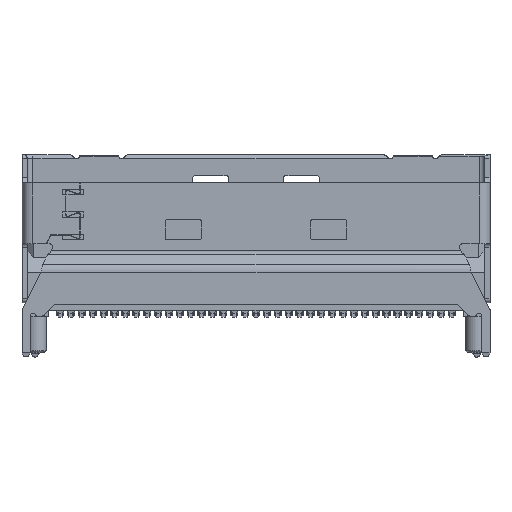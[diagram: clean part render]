
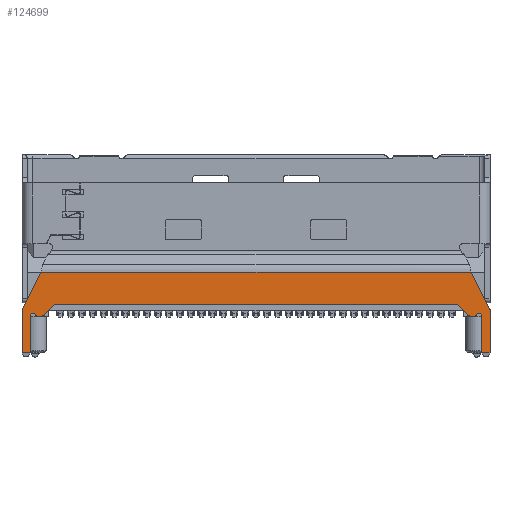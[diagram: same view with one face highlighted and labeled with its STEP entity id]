
A CAD part, top view. The second image highlights one B-rep face of the part: STEP entity #124699.
In plain terms, the highlighted planar face has unit normal (0, 0, 1).
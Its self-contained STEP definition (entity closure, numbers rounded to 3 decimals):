
#2596=DIRECTION('',(-1.,0.,0.));
#2597=VECTOR('',#2596,0.45);
#2598=CARTESIAN_POINT('',(-12.45,-3.68,2.3));
#2599=LINE('',#2598,#2597);
#2634=DIRECTION('',(0.,-1.,0.));
#2635=VECTOR('',#2634,2.34);
#2636=CARTESIAN_POINT('',(-12.9,-1.34,2.3));
#2637=LINE('',#2636,#2635);
#27380=DIRECTION('',(-1.,0.,0.));
#27381=VECTOR('',#27380,23.723);
#27382=CARTESIAN_POINT('',(11.861,0.771,
2.3));
#27383=LINE('',#27382,#27381);
#27395=DIRECTION('',(1.,0.,0.));
#27396=VECTOR('',#27395,0.45);
#27397=CARTESIAN_POINT('',(12.45,-3.68,2.3));
#27398=LINE('',#27397,#27396);
#27399=DIRECTION('',(0.,-1.,0.));
#27400=VECTOR('',#27399,2.045);
#27401=CARTESIAN_POINT('',(12.45,-1.635,2.3));
#27402=LINE('',#27401,#27400);
#27403=CARTESIAN_POINT('',(12.3,-1.635,2.3));
#27404=DIRECTION('',(0.,0.,-1.));
#27405=DIRECTION('',(-0.893,0.45,0.));
#27406=AXIS2_PLACEMENT_3D('',#27403,#27404,#27405);
#27408=CARTESIAN_POINT('',(12.032,-1.5,2.3));
#27409=DIRECTION('',(0.,0.,1.));
#27410=DIRECTION('',(0.,-1.,0.));
#27411=AXIS2_PLACEMENT_3D('',#27408,#27409,#27410);
#27413=DIRECTION('',(1.,0.,0.));
#27414=VECTOR('',#27413,0.166);
#27415=CARTESIAN_POINT('',(11.866,-1.65,2.3));
#27416=LINE('',#27415,#27414);
#27417=CARTESIAN_POINT('',(11.866,-1.35,2.3));
#27418=DIRECTION('',(0.,0.,1.));
#27419=DIRECTION('',(-0.719,-0.695,0.));
#27420=AXIS2_PLACEMENT_3D('',#27417,#27418,#27419);
#27422=DIRECTION('',(0.695,-0.719,0.));
#27423=VECTOR('',#27422,0.649);
#27424=CARTESIAN_POINT('',(11.199,-1.092,2.3));
#27425=LINE('',#27424,#27423);
#27426=CARTESIAN_POINT('',(10.983,-1.3,2.3));
#27427=DIRECTION('',(0.,0.,-1.));
#27428=DIRECTION('',(0.,1.,0.));
#27429=AXIS2_PLACEMENT_3D('',#27426,#27427,#27428);
#27431=CARTESIAN_POINT('',(-10.983,-1.3,2.3));
#27432=DIRECTION('',(0.,0.,-1.));
#27433=DIRECTION('',(-0.719,0.695,0.));
#27434=AXIS2_PLACEMENT_3D('',#27431,#27432,#27433);
#27436=DIRECTION('',(0.695,0.719,0.));
#27437=VECTOR('',#27436,0.649);
#27438=CARTESIAN_POINT('',(-11.65,-1.558,2.3));
#27439=LINE('',#27438,#27437);
#27440=CARTESIAN_POINT('',(-11.866,-1.35,2.3));
#27441=DIRECTION('',(0.,0.,1.));
#27442=DIRECTION('',(0.,-1.,0.));
#27443=AXIS2_PLACEMENT_3D('',#27440,#27441,#27442);
#27445=CARTESIAN_POINT('',(-12.032,-1.5,2.3));
#27446=DIRECTION('',(0.,0.,1.));
#27447=DIRECTION('',(-0.893,-0.45,0.));
#27448=AXIS2_PLACEMENT_3D('',#27445,#27446,#27447);
#27450=CARTESIAN_POINT('',(-12.3,-1.635,2.3));
#27451=DIRECTION('',(0.,0.,-1.));
#27452=DIRECTION('',(-1.,0.,0.));
#27453=AXIS2_PLACEMENT_3D('',#27450,#27451,#27452);
#27455=DIRECTION('',(-0.442,-0.897,0.));
#27456=VECTOR('',#27455,2.353);
#27457=CARTESIAN_POINT('',(-11.861,0.771,
2.3));
#27458=LINE('',#27457,#27456);
#27459=DIRECTION('',(-0.442,0.897,0.));
#27460=VECTOR('',#27459,2.353);
#27461=CARTESIAN_POINT('',(12.9,-1.34,2.3));
#27462=LINE('',#27461,#27460);
#27484=DIRECTION('',(1.,0.,0.));
#27485=VECTOR('',#27484,21.967);
#27486=CARTESIAN_POINT('',(-10.983,-1.,2.3));
#27487=LINE('',#27486,#27485);
#27556=DIRECTION('',(1.,0.,0.));
#27557=VECTOR('',#27556,0.166);
#27558=CARTESIAN_POINT('',(-12.032,-1.65,2.3));
#27559=LINE('',#27558,#27557);
#27560=DIRECTION('',(0.,-1.,0.));
#27561=VECTOR('',#27560,2.045);
#27562=CARTESIAN_POINT('',(-12.45,-1.635,2.3));
#27563=LINE('',#27562,#27561);
#27576=DIRECTION('',(0.,-1.,0.));
#27577=VECTOR('',#27576,2.34);
#27578=CARTESIAN_POINT('',(12.9,-1.34,2.3));
#27579=LINE('',#27578,#27577);
#56853=CARTESIAN_POINT('',(12.9,-3.68,2.3));
#56854=VERTEX_POINT('',#56853);
#56858=CARTESIAN_POINT('',(12.45,-3.68,2.3));
#56859=VERTEX_POINT('',#56858);
#56864=CARTESIAN_POINT('',(-12.45,-3.68,2.3));
#56865=VERTEX_POINT('',#56864);
#56878=CARTESIAN_POINT('',(-12.9,-3.68,2.3));
#56879=VERTEX_POINT('',#56878);
#57383=CARTESIAN_POINT('',(11.861,0.771,
2.3));
#57385=VERTEX_POINT('',#57383);
#57407=CARTESIAN_POINT('',(12.45,-1.635,2.3));
#57408=VERTEX_POINT('',#57407);
#57409=CARTESIAN_POINT('',(12.166,-1.567,2.3));
#57411=VERTEX_POINT('',#57409);
#57414=CARTESIAN_POINT('',(12.032,-1.65,2.3));
#57416=VERTEX_POINT('',#57414);
#57419=CARTESIAN_POINT('',(11.866,-1.65,2.3));
#57420=VERTEX_POINT('',#57419);
#57423=CARTESIAN_POINT('',(11.65,-1.558,2.3));
#57424=VERTEX_POINT('',#57423);
#57427=CARTESIAN_POINT('',(11.199,-1.092,2.3));
#57428=VERTEX_POINT('',#57427);
#57447=CARTESIAN_POINT('',(-11.65,-1.558,2.3));
#57448=VERTEX_POINT('',#57447);
#57449=CARTESIAN_POINT('',(-11.866,-1.65,2.3));
#57450=VERTEX_POINT('',#57449);
#57451=CARTESIAN_POINT('',(-11.199,-1.092,2.3));
#57452=VERTEX_POINT('',#57451);
#57453=CARTESIAN_POINT('',(10.983,-1.,2.3));
#57454=VERTEX_POINT('',#57453);
#57455=CARTESIAN_POINT('',(-10.983,-1.,2.3));
#57456=VERTEX_POINT('',#57455);
#57457=CARTESIAN_POINT('',(-12.032,-1.65,2.3));
#57458=VERTEX_POINT('',#57457);
#57459=CARTESIAN_POINT('',(-12.166,-1.567,2.3));
#57460=VERTEX_POINT('',#57459);
#57461=CARTESIAN_POINT('',(-12.45,-1.635,2.3));
#57462=VERTEX_POINT('',#57461);
#57463=CARTESIAN_POINT('',(-12.9,-1.34,2.3));
#57464=VERTEX_POINT('',#57463);
#57465=CARTESIAN_POINT('',(-11.861,0.771,
2.3));
#57466=VERTEX_POINT('',#57465);
#57467=CARTESIAN_POINT('',(12.9,-1.34,2.3));
#57468=VERTEX_POINT('',#57467);
#124659=CARTESIAN_POINT('',(0.,-1.455,2.3));
#124660=DIRECTION('',(0.,0.,1.));
#124661=DIRECTION('',(0.,-1.,0.));
#124662=AXIS2_PLACEMENT_3D('',#124659,#124660,#124661);
#124663=PLANE('',#124662);
#124664=ORIENTED_EDGE('',*,*,#73942,.F.);
#124665=ORIENTED_EDGE('',*,*,#74024,.F.);
#124666=ORIENTED_EDGE('',*,*,#74043,.F.);
#124667=ORIENTED_EDGE('',*,*,#74066,.F.);
#124668=ORIENTED_EDGE('',*,*,#74090,.F.);
#124669=ORIENTED_EDGE('',*,*,#74153,.F.);
#124670=ORIENTED_EDGE('',*,*,#74175,.F.);
#124672=ORIENTED_EDGE('',*,*,#124671,.F.);
#124674=ORIENTED_EDGE('',*,*,#124673,.F.);
#124676=ORIENTED_EDGE('',*,*,#124675,.F.);
#124678=ORIENTED_EDGE('',*,*,#124677,.F.);
#124680=ORIENTED_EDGE('',*,*,#124679,.F.);
#124682=ORIENTED_EDGE('',*,*,#124681,.F.);
#124684=ORIENTED_EDGE('',*,*,#124683,.F.);
#124686=ORIENTED_EDGE('',*,*,#124685,.F.);
#124688=ORIENTED_EDGE('',*,*,#124687,.T.);
#124689=ORIENTED_EDGE('',*,*,#74410,.T.);
#124690=ORIENTED_EDGE('',*,*,#74492,.F.);
#124691=ORIENTED_EDGE('',*,*,#74513,.F.);
#124692=ORIENTED_EDGE('',*,*,#124645,.F.);
#124694=ORIENTED_EDGE('',*,*,#124693,.F.);
#124696=ORIENTED_EDGE('',*,*,#124695,.T.);
#124697=EDGE_LOOP('',(#124664,#124665,#124666,#124667,#124668,#124669,#124670,
#124672,#124674,#124676,#124678,#124680,#124682,#124684,#124686,#124688,#124689,
#124690,#124691,#124692,#124694,#124696));
#124698=FACE_OUTER_BOUND('',#124697,.F.);
#27407=CIRCLE('',#27406,0.15);
#27412=CIRCLE('',#27411,0.15);
#27421=CIRCLE('',#27420,0.3);
#27430=CIRCLE('',#27429,0.3);
#27435=CIRCLE('',#27434,0.3);
#27444=CIRCLE('',#27443,0.3);
#27449=CIRCLE('',#27448,0.15);
#27454=CIRCLE('',#27453,0.15);
#73942=EDGE_CURVE('',#56859,#56854,#27398,.T.);
#74024=EDGE_CURVE('',#57408,#56859,#27402,.T.);
#74043=EDGE_CURVE('',#57411,#57408,#27407,.T.);
#74066=EDGE_CURVE('',#57416,#57411,#27412,.T.);
#74090=EDGE_CURVE('',#57420,#57416,#27416,.T.);
#74153=EDGE_CURVE('',#57424,#57420,#27421,.T.);
#74175=EDGE_CURVE('',#57428,#57424,#27425,.T.);
#74410=EDGE_CURVE('',#56865,#56879,#2599,.T.);
#74492=EDGE_CURVE('',#57464,#56879,#2637,.T.);
#74513=EDGE_CURVE('',#57466,#57464,#27458,.T.);
#124645=EDGE_CURVE('',#57385,#57466,#27383,.T.);
#124671=EDGE_CURVE('',#57454,#57428,#27430,.T.);
#124673=EDGE_CURVE('',#57456,#57454,#27487,.T.);
#124675=EDGE_CURVE('',#57452,#57456,#27435,.T.);
#124677=EDGE_CURVE('',#57448,#57452,#27439,.T.);
#124679=EDGE_CURVE('',#57450,#57448,#27444,.T.);
#124681=EDGE_CURVE('',#57458,#57450,#27559,.T.);
#124683=EDGE_CURVE('',#57460,#57458,#27449,.T.);
#124685=EDGE_CURVE('',#57462,#57460,#27454,.T.);
#124687=EDGE_CURVE('',#57462,#56865,#27563,.T.);
#124693=EDGE_CURVE('',#57468,#57385,#27462,.T.);
#124695=EDGE_CURVE('',#57468,#56854,#27579,.T.);
#124699=ADVANCED_FACE('',(#124698),#124663,.T.);
